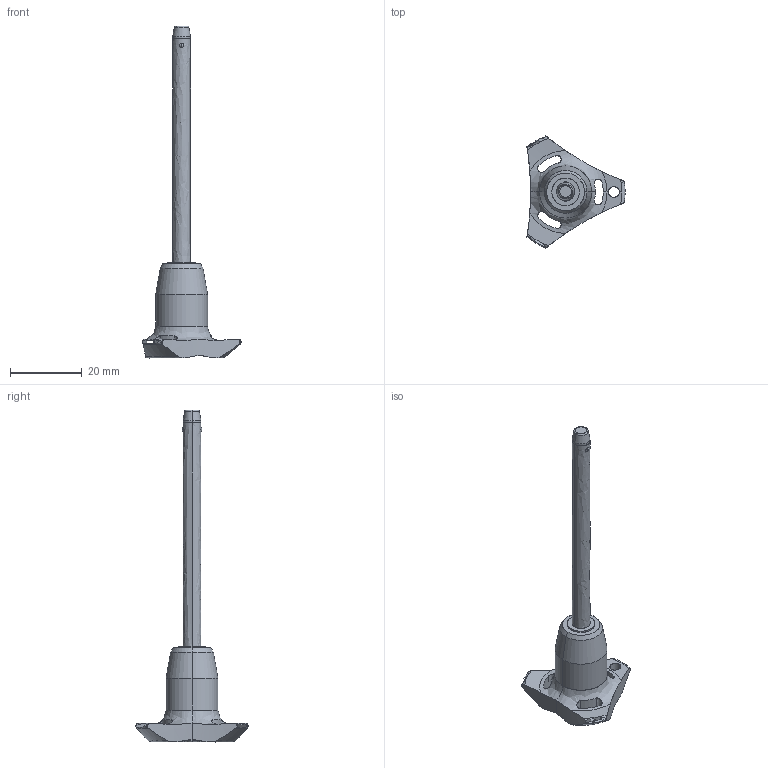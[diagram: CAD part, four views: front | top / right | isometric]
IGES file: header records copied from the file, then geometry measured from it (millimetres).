
Start section: SolidWorks IGES file using analytic representation for surfaces
Global section: file name: C:\Users\ianosborn\Desktop\QR1736_v2\QR1736_v2_20251115_IGES\QR1736.M05-060-T.igs; native system: SolidWorks 2019; preprocessor: SolidWorks 2019; author: IanOsborn; date: 251113.114900; units: millimetre
Bounding box: 27.4 x 31.31 x 92.7 mm (x, y, z)
Surface area: 3451 mm2 (no closed solid volume)
Topology: 0 solids, 0 shells, 69 faces, 1299 edges, 1280 vertices
Faces by surface type: revolution 52, bspline 17
